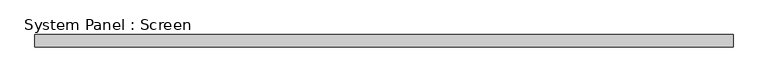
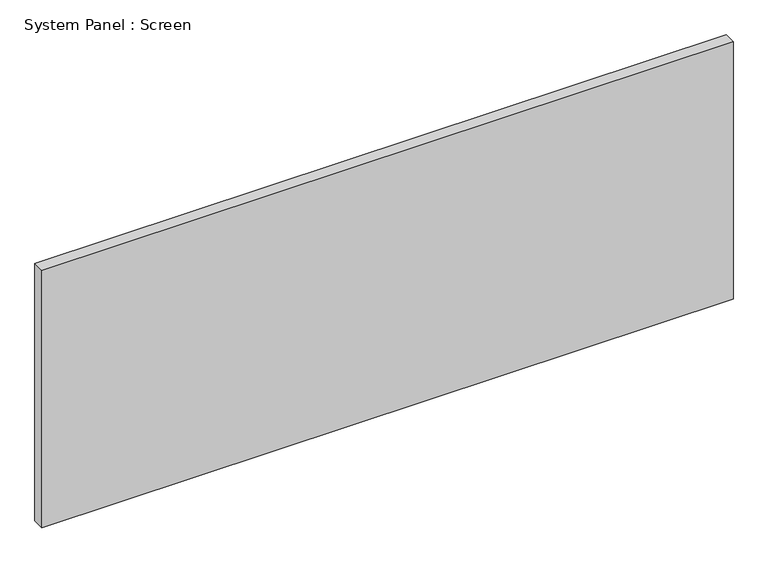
"""IFC4 building model written with IfcOpenShell, lengths in millimetres: plate geometry, System Panel : Screen."""

from ifc_helpers import new_model, si_unit, origin, origin_with_axes, place, context, project, spatial, polyline, outline, extrude, source, transform, mapped, element, save


def system_panel_screen_9b5d54dd(model_context):
    return source(origin(), model_context, "Body", "SweptSolid", [
        extrude(outline(polyline([(730.25, -12.7), (-730.25, -12.7), (-730.25, 12.7), (730.25, 12.7), (730.25, -12.7)])), origin_with_axes(), (0.0, 0.0, 1.0), 575.31),
    ])


if __name__ == "__main__":
    model = new_model("IFC4")
    model_context = context("Model", 3, world=origin())
    ifc_project = project(units=[si_unit("LENGTHUNIT", "METRE", prefix="MILLI")], contexts=[model_context])
    site = spatial("IfcSite", under=ifc_project)
    building = spatial("IfcBuilding", under=site)
    placement = place(None, origin())
    system_panel_screen_shape = system_panel_screen_9b5d54dd(model_context)
    element("IfcPlate", 1, ObjectType="System Panel : Screen", at=placement, inside=building, context=model_context, shape_type="MappedRepresentation", body=[
        mapped(system_panel_screen_shape, transform((0.0, 0.0, 0.0), x_axis=(1.0, 0.0, 0.0), y_axis=(0.0, 1.0, 0.0), z_axis=(0.0, 0.0, 1.0))),
    ])
    save(model, "model.ifc")
